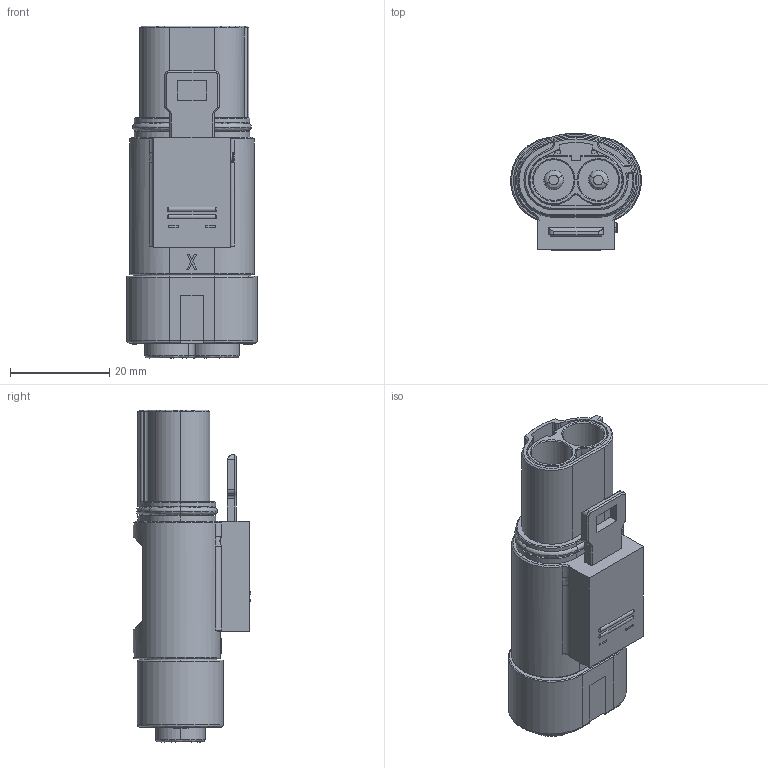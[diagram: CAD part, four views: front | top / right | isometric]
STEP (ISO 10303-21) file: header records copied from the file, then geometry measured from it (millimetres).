
FILE_DESCRIPTION (( 'STEP AP214' ), '1' );
FILE_NAME ('PL182X-61-4.STEP', '2015-03-25T07:14:55', ( '' ), ( '' ), 'SwSTEP 2.0', 'SolidWorks 2014', '' );
FILE_SCHEMA (( 'AUTOMOTIVE_DESIGN' ));
Length unit declared in the file: millimetre
Products named in the file (1): PL182X-61-4
Bounding box: 26.4 x 23.71 x 67 mm (x, y, z)
Volume: 22204.4 mm3; surface area: 8603 mm2
Topology: 1 solids, 1 shells, 407 faces, 1034 edges, 660 vertices
Faces by surface type: plane 186, cylinder 132, bspline 48, cone 41
Entity records: 17998 total; most frequent: CARTESIAN_POINT 4271, ORIENTED_EDGE 2068, DIRECTION 1999, EDGE_CURVE 1034, AXIS2_PLACEMENT_3D 700, VERTEX_POINT 660, LINE 599, VECTOR 599
